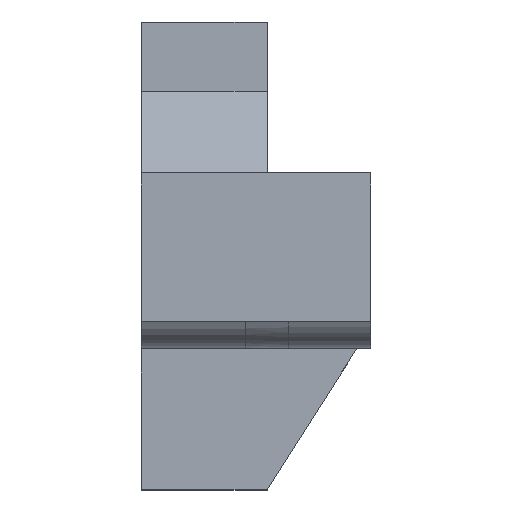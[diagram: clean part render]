
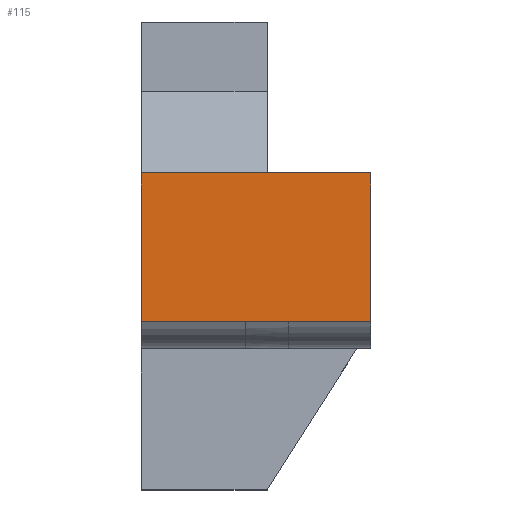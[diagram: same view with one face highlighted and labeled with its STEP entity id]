
A CAD part, top view. The second image highlights one B-rep face of the part: STEP entity #115.
In plain terms, the highlighted planar face has unit normal (0, 0, 1).
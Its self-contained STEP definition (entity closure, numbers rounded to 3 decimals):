
#115=ADVANCED_FACE('',(#217),#1744,.T.);
#217=FACE_OUTER_BOUND('',#331,.T.);
#331=EDGE_LOOP('',(#782,#783,#784,#785,#786,#787));
#782=ORIENTED_EDGE('',*,*,#1136,.T.);
#783=ORIENTED_EDGE('',*,*,#1139,.F.);
#784=ORIENTED_EDGE('',*,*,#1141,.F.);
#785=ORIENTED_EDGE('',*,*,#1140,.F.);
#786=ORIENTED_EDGE('',*,*,#1138,.T.);
#787=ORIENTED_EDGE('',*,*,#1137,.T.);
#1136=EDGE_CURVE('',#1624,#1625,#1276,.T.);
#1137=EDGE_CURVE('',#1626,#1624,#1277,.T.);
#1138=EDGE_CURVE('',#1627,#1626,#1278,.T.);
#1139=EDGE_CURVE('',#1628,#1625,#1464,.T.);
#1140=EDGE_CURVE('',#1627,#1629,#1465,.T.);
#1141=EDGE_CURVE('',#1629,#1628,#1466,.T.);
#1276=(
BOUNDED_CURVE()
B_SPLINE_CURVE(1,(#3225,#3226),.UNSPECIFIED.,.F.,.F.)
B_SPLINE_CURVE_WITH_KNOTS((2,2),(0.,15.),.UNSPECIFIED.)
CURVE()
GEOMETRIC_REPRESENTATION_ITEM()
RATIONAL_B_SPLINE_CURVE((1.,1.))
REPRESENTATION_ITEM('')
);
#1277=(
BOUNDED_CURVE()
B_SPLINE_CURVE(1,(#3227,#3228),.UNSPECIFIED.,.F.,.F.)
B_SPLINE_CURVE_WITH_KNOTS((2,2),(0.,7.89),.UNSPECIFIED.)
CURVE()
GEOMETRIC_REPRESENTATION_ITEM()
RATIONAL_B_SPLINE_CURVE((1.,1.))
REPRESENTATION_ITEM('')
);
#1278=(
BOUNDED_CURVE()
B_SPLINE_CURVE(1,(#3229,#3230),.UNSPECIFIED.,.F.,.F.)
B_SPLINE_CURVE_WITH_KNOTS((2,2),(-19.,0.),.UNSPECIFIED.)
CURVE()
GEOMETRIC_REPRESENTATION_ITEM()
RATIONAL_B_SPLINE_CURVE((1.,1.))
REPRESENTATION_ITEM('')
);
#1464=B_SPLINE_CURVE_WITH_KNOTS('',1,(#3231,#3232),.UNSPECIFIED.,.F.,.F.,
(2,2),(-162.875,-135.752),.UNSPECIFIED.);
#1465=B_SPLINE_CURVE_WITH_KNOTS('',1,(#3233,#3234),.UNSPECIFIED.,.F.,.F.,
(2,2),(30.613,57.736),.UNSPECIFIED.);
#1466=B_SPLINE_CURVE_WITH_KNOTS('',1,(#3235,#3236),.UNSPECIFIED.,.F.,.F.,
(2,2),(-41.89,0.),.UNSPECIFIED.);
#1624=VERTEX_POINT('',#2576);
#1625=VERTEX_POINT('',#2577);
#1626=VERTEX_POINT('',#2578);
#1627=VERTEX_POINT('',#2579);
#1628=VERTEX_POINT('',#2580);
#1629=VERTEX_POINT('',#2581);
#1744=PLANE('',#1821);
#1821=AXIS2_PLACEMENT_3D('',#2157,#1881,$);
#1881=DIRECTION('',(0.,0.,1.));
#2157=CARTESIAN_POINT('',(-312.05,-13.416,476.272));
#2576=CARTESIAN_POINT('',(167.995,135.752,476.272));
#2577=CARTESIAN_POINT('',(182.995,135.752,476.272));
#2578=CARTESIAN_POINT('',(160.105,135.752,476.272));
#2579=CARTESIAN_POINT('',(141.105,135.752,476.272));
#2580=CARTESIAN_POINT('',(182.995,162.875,476.272));
#2581=CARTESIAN_POINT('',(141.105,162.875,476.272));
#3225=CARTESIAN_POINT('',(167.995,135.752,476.272));
#3226=CARTESIAN_POINT('',(182.995,135.752,476.272));
#3227=CARTESIAN_POINT('',(160.105,135.752,476.272));
#3228=CARTESIAN_POINT('',(167.995,135.752,476.272));
#3229=CARTESIAN_POINT('',(141.105,135.752,476.272));
#3230=CARTESIAN_POINT('',(160.105,135.752,476.272));
#3231=CARTESIAN_POINT('',(182.995,162.875,476.272));
#3232=CARTESIAN_POINT('',(182.995,135.752,476.272));
#3233=CARTESIAN_POINT('',(141.105,135.752,476.272));
#3234=CARTESIAN_POINT('',(141.105,162.875,476.272));
#3235=CARTESIAN_POINT('',(141.105,162.875,476.272));
#3236=CARTESIAN_POINT('',(182.995,162.875,476.272));
